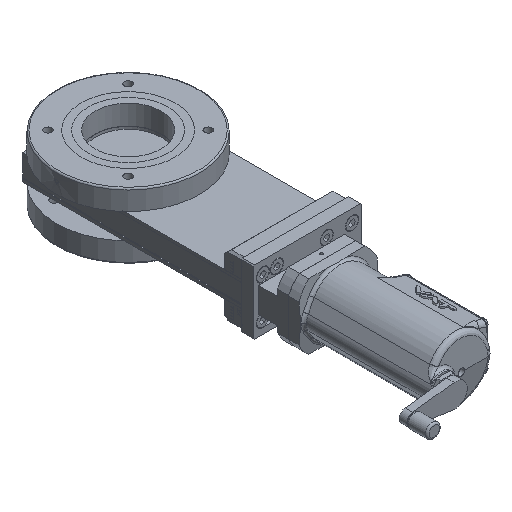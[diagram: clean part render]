
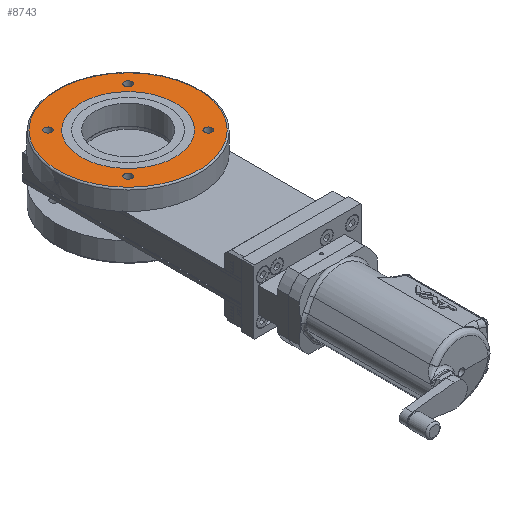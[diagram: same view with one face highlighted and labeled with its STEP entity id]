
A CAD part, isometric view. The second image highlights one B-rep face of the part: STEP entity #8743.
In plain terms, the highlighted planar face has unit normal (0, 0, 1).
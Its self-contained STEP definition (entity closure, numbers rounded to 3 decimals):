
#6475=B_SPLINE_CURVE_WITH_KNOTS('',3,(#24774,#24775,#24776,#24777,#24778,
#24779,#24780,#24781,#24782,#24783,#24784,#24785,#24786,#24787,#24788,#24789,
#24790,#24791,#24792,#24793,#24794,#24795,#24796,#24797,#24798,#24799,#24800,
#24801,#24802,#24803,#24804,#24805,#24806,#24807,#24808,#24809,#24810,#24811,
#24812,#24813,#24814,#24815,#24816,#24817,#24818,#24819,#24820,#24821,#24822),
 .UNSPECIFIED.,.T.,.F.,(1,3,3,3,3,3,3,3,3,3,3,3,3,3,3,3,3,3,1),(-0.063,
0.,0.063,0.125,0.188,0.25,0.313,0.375,0.438,0.5,0.563,0.625,0.688,
0.75,0.813,0.875,0.938,1.,1.063),.UNSPECIFIED.);
#8743=ADVANCED_FACE('',(#10033,#10034,#10035,#10036,#10037,#10038),#9591,
 .T.);
#9591=PLANE('',#19039);
#10033=FACE_BOUND('',#10691,.T.);
#10034=FACE_BOUND('',#10692,.T.);
#10035=FACE_BOUND('',#10693,.T.);
#10036=FACE_BOUND('',#10694,.T.);
#10037=FACE_BOUND('',#10695,.T.);
#10038=FACE_BOUND('',#10696,.T.);
#10691=EDGE_LOOP('',(#12464));
#10692=EDGE_LOOP('',(#12465));
#10693=EDGE_LOOP('',(#12466));
#10694=EDGE_LOOP('',(#12467));
#10695=EDGE_LOOP('',(#12468));
#10696=EDGE_LOOP('',(#12469));
#12464=ORIENTED_EDGE('',*,*,#17021,.F.);
#12465=ORIENTED_EDGE('',*,*,#17030,.T.);
#12466=ORIENTED_EDGE('',*,*,#17031,.T.);
#12467=ORIENTED_EDGE('',*,*,#17032,.T.);
#12468=ORIENTED_EDGE('',*,*,#17033,.T.);
#12469=ORIENTED_EDGE('',*,*,#17034,.T.);
#15532=VERTEX_POINT('',#24823);
#15541=VERTEX_POINT('',#24893);
#15542=VERTEX_POINT('',#24895);
#15543=VERTEX_POINT('',#24897);
#15544=VERTEX_POINT('',#24899);
#15545=VERTEX_POINT('',#24901);
#17021=EDGE_CURVE('',#15532,#15532,#6475,.T.);
#17030=EDGE_CURVE('',#15541,#15541,#18417,.T.);
#17031=EDGE_CURVE('',#15542,#15542,#18418,.T.);
#17032=EDGE_CURVE('',#15543,#15543,#18419,.T.);
#17033=EDGE_CURVE('',#15544,#15544,#18420,.T.);
#17034=EDGE_CURVE('',#15545,#15545,#18421,.T.);
#18417=CIRCLE('',#19034,74.7);
#18418=CIRCLE('',#19035,3.969);
#18419=CIRCLE('',#19036,3.969);
#18420=CIRCLE('',#19037,3.969);
#18421=CIRCLE('',#19038,3.969);
#19034=AXIS2_PLACEMENT_3D('',#24892,#21046,#21047);
#19035=AXIS2_PLACEMENT_3D('',#24894,#21048,#21049);
#19036=AXIS2_PLACEMENT_3D('',#24896,#21050,#21051);
#19037=AXIS2_PLACEMENT_3D('',#24898,#21052,#21053);
#19038=AXIS2_PLACEMENT_3D('',#24900,#21054,#21055);
#19039=AXIS2_PLACEMENT_3D('',#24902,#21056,#21057);
#21046=DIRECTION('',(0.,0.,1.));
#21047=DIRECTION('',(0.707,-0.707,0.));
#21048=DIRECTION('',(0.,0.,-1.));
#21049=DIRECTION('',(0.707,0.707,0.));
#21050=DIRECTION('',(0.,0.,-1.));
#21051=DIRECTION('',(0.707,-0.707,0.));
#21052=DIRECTION('',(0.,0.,-1.));
#21053=DIRECTION('',(-0.707,-0.707,0.));
#21054=DIRECTION('',(0.,0.,-1.));
#21055=DIRECTION('',(-0.707,0.707,0.));
#21056=DIRECTION('',(0.,0.,1.));
#21057=DIRECTION('',(0.707,-0.707,0.));
#24774=CARTESIAN_POINT('',(35.355,-35.355,48.375));
#24775=CARTESIAN_POINT('',(40.044,-30.667,48.375));
#24776=CARTESIAN_POINT('',(43.657,-25.259,48.375));
#24777=CARTESIAN_POINT('',(46.194,-19.134,48.375));
#24778=CARTESIAN_POINT('',(48.731,-13.009,48.375));
#24779=CARTESIAN_POINT('',(50.,-6.63,48.375));
#24780=CARTESIAN_POINT('',(50.,0.,48.375));
#24781=CARTESIAN_POINT('',(50.,6.63,48.375));
#24782=CARTESIAN_POINT('',(48.731,13.009,48.375));
#24783=CARTESIAN_POINT('',(46.194,19.134,48.375));
#24784=CARTESIAN_POINT('',(43.657,25.26,48.375));
#24785=CARTESIAN_POINT('',(40.043,30.667,48.375));
#24786=CARTESIAN_POINT('',(35.355,35.355,48.375));
#24787=CARTESIAN_POINT('',(30.667,40.044,48.375));
#24788=CARTESIAN_POINT('',(25.259,43.657,48.375));
#24789=CARTESIAN_POINT('',(19.134,46.194,48.375));
#24790=CARTESIAN_POINT('',(13.009,48.731,48.375));
#24791=CARTESIAN_POINT('',(6.63,50.,48.375));
#24792=CARTESIAN_POINT('',(0.,50.,48.375));
#24793=CARTESIAN_POINT('',(-6.63,50.,48.375));
#24794=CARTESIAN_POINT('',(-13.009,48.731,48.375));
#24795=CARTESIAN_POINT('',(-19.134,46.194,48.375));
#24796=CARTESIAN_POINT('',(-25.26,43.657,48.375));
#24797=CARTESIAN_POINT('',(-30.667,40.043,48.375));
#24798=CARTESIAN_POINT('',(-35.355,35.355,48.375));
#24799=CARTESIAN_POINT('',(-40.044,30.667,48.375));
#24800=CARTESIAN_POINT('',(-43.657,25.259,48.375));
#24801=CARTESIAN_POINT('',(-46.194,19.134,48.375));
#24802=CARTESIAN_POINT('',(-48.731,13.009,48.375));
#24803=CARTESIAN_POINT('',(-50.,6.63,48.375));
#24804=CARTESIAN_POINT('',(-50.,0.,48.375));
#24805=CARTESIAN_POINT('',(-50.,-6.63,48.375));
#24806=CARTESIAN_POINT('',(-48.731,-13.009,48.375));
#24807=CARTESIAN_POINT('',(-46.194,-19.134,48.375));
#24808=CARTESIAN_POINT('',(-43.657,-25.26,48.375));
#24809=CARTESIAN_POINT('',(-40.043,-30.667,48.375));
#24810=CARTESIAN_POINT('',(-35.355,-35.355,48.375));
#24811=CARTESIAN_POINT('',(-30.667,-40.044,48.375));
#24812=CARTESIAN_POINT('',(-25.259,-43.657,48.375));
#24813=CARTESIAN_POINT('',(-19.134,-46.194,48.375));
#24814=CARTESIAN_POINT('',(-13.009,-48.731,48.375));
#24815=CARTESIAN_POINT('',(-6.63,-50.,48.375));
#24816=CARTESIAN_POINT('',(0.,-50.,48.375));
#24817=CARTESIAN_POINT('',(6.63,-50.,48.375));
#24818=CARTESIAN_POINT('',(13.008,-48.731,48.375));
#24819=CARTESIAN_POINT('',(19.134,-46.194,48.375));
#24820=CARTESIAN_POINT('',(25.26,-43.657,48.375));
#24821=CARTESIAN_POINT('',(30.667,-40.044,48.375));
#24822=CARTESIAN_POINT('',(35.355,-35.355,48.375));
#24823=CARTESIAN_POINT('',(35.355,-35.355,48.375));
#24892=CARTESIAN_POINT('',(0.,0.,48.375));
#24893=CARTESIAN_POINT('',(52.821,-52.821,48.375));
#24894=CARTESIAN_POINT('',(42.674,-42.674,48.375));
#24895=CARTESIAN_POINT('',(45.48,-39.868,48.375));
#24896=CARTESIAN_POINT('',(-42.674,-42.674,48.375));
#24897=CARTESIAN_POINT('',(-39.868,-45.48,48.375));
#24898=CARTESIAN_POINT('',(-42.674,42.674,48.375));
#24899=CARTESIAN_POINT('',(-45.48,39.868,48.375));
#24900=CARTESIAN_POINT('',(42.674,42.674,48.375));
#24901=CARTESIAN_POINT('',(39.868,45.48,48.375));
#24902=CARTESIAN_POINT('',(53.882,53.882,48.375));
